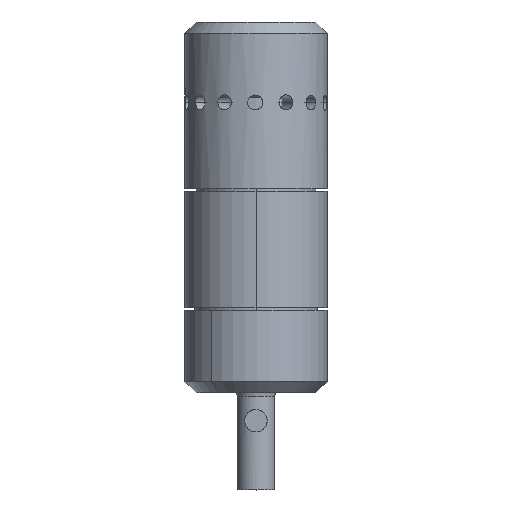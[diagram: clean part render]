
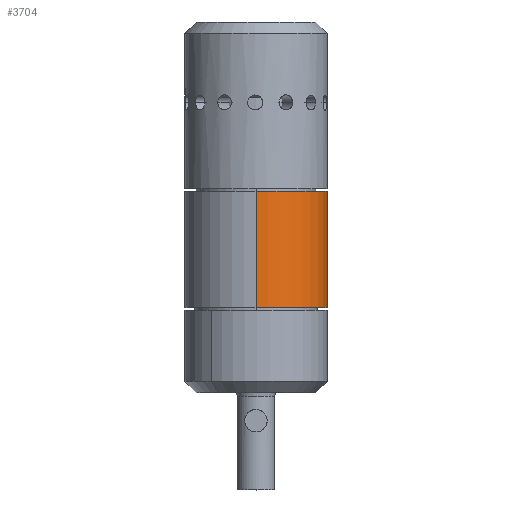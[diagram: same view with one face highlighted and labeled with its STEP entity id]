
A CAD part, top view. The second image highlights one B-rep face of the part: STEP entity #3704.
In plain terms, the highlighted cylindrical face has radius 19 mm (diameter 38 mm), a partial arc.
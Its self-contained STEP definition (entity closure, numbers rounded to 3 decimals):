
#236 = EDGE_CURVE ( 'NONE', #388, #6817, #2220, .T. ) ;
#374 = DIRECTION ( 'NONE',  ( 0., -1., 0. ) ) ;
#388 = VERTEX_POINT ( 'NONE', #7038 ) ;
#1016 = FACE_OUTER_BOUND ( 'NONE', #6249, .T. ) ;
#1050 = DIRECTION ( 'NONE',  ( 0., 1., 0. ) ) ;
#1576 = AXIS2_PLACEMENT_3D ( 'NONE', #6862, #6307, #2782 ) ;
#1638 = CARTESIAN_POINT ( 'NONE',  ( 0., 42., -19. ) ) ;
#1854 = DIRECTION ( 'NONE',  ( 0., -1., 0. ) ) ;
#1935 = LINE ( 'NONE', #4780, #4879 ) ;
#2220 = CIRCLE ( 'NONE', #2533, 19. ) ;
#2301 = EDGE_CURVE ( 'NONE', #388, #6736, #5262, .T. ) ;
#2349 = EDGE_CURVE ( 'NONE', #6203, #6736, #3506, .T. ) ;
#2407 = ORIENTED_EDGE ( 'NONE', *, *, #4174, .F. ) ;
#2533 = AXIS2_PLACEMENT_3D ( 'NONE', #5181, #1050, #4573 ) ;
#2782 = DIRECTION ( 'NONE',  ( 0., 0., -1. ) ) ;
#3235 = ORIENTED_EDGE ( 'NONE', *, *, #236, .F. ) ;
#3366 = DIRECTION ( 'NONE',  ( 0., -1., 0. ) ) ;
#3506 = CIRCLE ( 'NONE', #6594, 19. ) ;
#3674 = VECTOR ( 'NONE', #374, 1000. ) ;
#3704 = ADVANCED_FACE ( 'NONE', ( #1016 ), #5521, .T. ) ;
#3784 = ORIENTED_EDGE ( 'NONE', *, *, #2349, .F. ) ;
#4174 = EDGE_CURVE ( 'NONE', #6817, #6203, #1935, .T. ) ;
#4573 = DIRECTION ( 'NONE',  ( 0., 0., 1. ) ) ;
#4780 = CARTESIAN_POINT ( 'NONE',  ( 0., 57.5, -19. ) ) ;
#4879 = VECTOR ( 'NONE', #1854, 1000. ) ;
#4938 = ORIENTED_EDGE ( 'NONE', *, *, #2301, .T. ) ;
#5181 = CARTESIAN_POINT ( 'NONE',  ( 0., 42., 0. ) ) ;
#5262 = LINE ( 'NONE', #5596, #3674 ) ;
#5521 = CYLINDRICAL_SURFACE ( 'NONE', #1576, 19. ) ;
#5596 = CARTESIAN_POINT ( 'NONE',  ( 0., 57.5, 19. ) ) ;
#5886 = CARTESIAN_POINT ( 'NONE',  ( 0., 11., -19. ) ) ;
#6203 = VERTEX_POINT ( 'NONE', #5886 ) ;
#6225 = CARTESIAN_POINT ( 'NONE',  ( 0., 11., 19. ) ) ;
#6249 = EDGE_LOOP ( 'NONE', ( #3235, #4938, #3784, #2407 ) ) ;
#6307 = DIRECTION ( 'NONE',  ( 0., -1., 0. ) ) ;
#6594 = AXIS2_PLACEMENT_3D ( 'NONE', #6867, #3366, #7456 ) ;
#6736 = VERTEX_POINT ( 'NONE', #6225 ) ;
#6817 = VERTEX_POINT ( 'NONE', #1638 ) ;
#6862 = CARTESIAN_POINT ( 'NONE',  ( 0., 57.5, 0. ) ) ;
#6867 = CARTESIAN_POINT ( 'NONE',  ( 0., 11., 0. ) ) ;
#7038 = CARTESIAN_POINT ( 'NONE',  ( 0., 42., 19. ) ) ;
#7456 = DIRECTION ( 'NONE',  ( 0., 0., -1. ) ) ;
